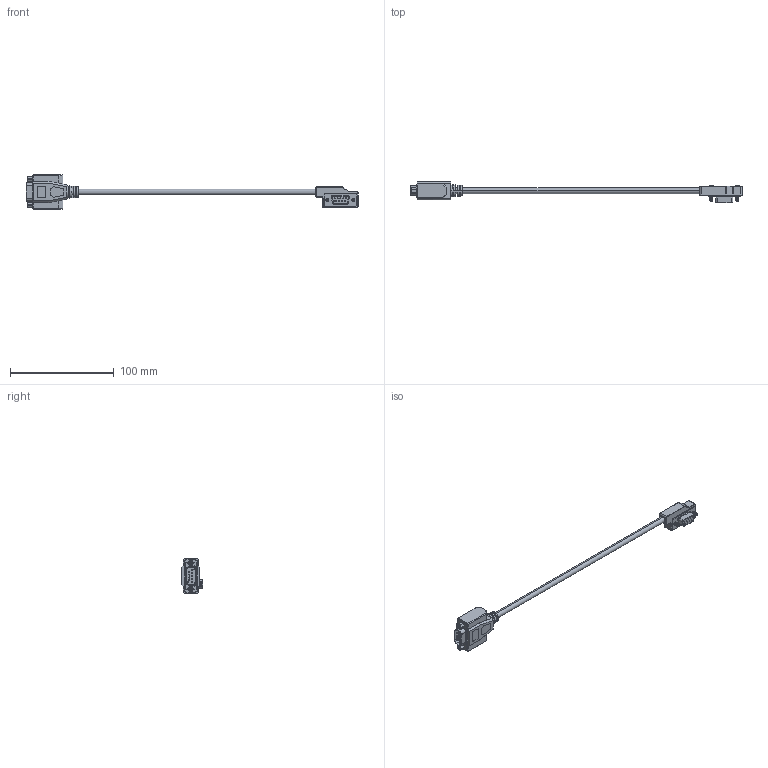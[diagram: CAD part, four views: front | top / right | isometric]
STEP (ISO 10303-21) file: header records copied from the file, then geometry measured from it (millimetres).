
FILE_DESCRIPTION (( 'STEP AP203' ), '1' );
FILE_NAME ('SX-To-JX_CABLE.STEP', '2023-11-28T16:13:56', ( '' ), ( '' ), 'SwSTEP 2.0', 'SolidWorks 2020', '' );
FILE_SCHEMA (( 'CONFIG_CONTROL_DESIGN' ));
Length unit declared in the file: inch
Products named in the file (1): SX-To-JX_CABLE
Bounding box: 319.4 x 20.22 x 33.02 mm (x, y, z)
Volume: 27393.5 mm3; surface area: 18083.6 mm2
Topology: 11 solids, 11 shells, 771 faces, 1965 edges, 1269 vertices
Faces by surface type: plane 351, cylinder 295, cone 56, bspline 49, torus 20
Entity records: 30299 total; most frequent: CARTESIAN_POINT 12330, ORIENTED_EDGE 3930, DIRECTION 3480, EDGE_CURVE 1965, VERTEX_POINT 1269, AXIS2_PLACEMENT_3D 1201, VECTOR 1078, LINE 1078
